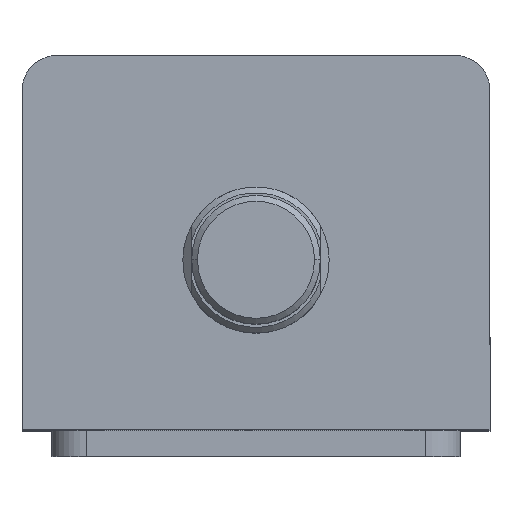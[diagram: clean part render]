
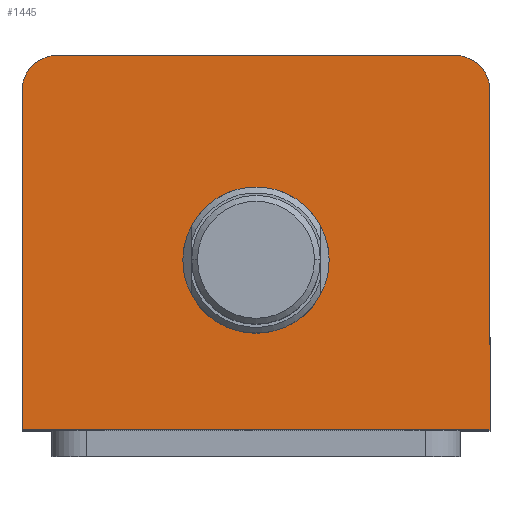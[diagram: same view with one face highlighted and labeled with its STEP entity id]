
A CAD part, top view. The second image highlights one B-rep face of the part: STEP entity #1445.
In plain terms, the highlighted planar face has unit normal (0, 0, 1).
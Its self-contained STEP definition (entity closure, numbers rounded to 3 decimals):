
#2 = VERTEX_POINT ( 'NONE', #3546 ) ;
#53 = AXIS2_PLACEMENT_3D ( 'NONE', #2887, #2951, #2975 ) ;
#75 = VERTEX_POINT ( 'NONE', #3510 ) ;
#198 = VERTEX_POINT ( 'NONE', #3489 ) ;
#221 = AXIS2_PLACEMENT_3D ( 'NONE', #3081, #3080, #3079 ) ;
#361 = DIRECTION ( 'NONE',  ( 1., 0., 0. ) ) ;
#362 = DIRECTION ( 'NONE',  ( 0., 0., 1. ) ) ;
#375 = PLANE ( 'NONE',  #1585 ) ;
#386 = CARTESIAN_POINT ( 'NONE',  ( 0., 0., 125. ) ) ;
#555 = VERTEX_POINT ( 'NONE', #3459 ) ;
#608 = VERTEX_POINT ( 'NONE', #3644 ) ;
#636 = VERTEX_POINT ( 'NONE', #3615 ) ;
#642 = VERTEX_POINT ( 'NONE', #3609 ) ;
#733 = EDGE_LOOP ( 'NONE', ( #1634, #1632 ) ) ;
#744 = EDGE_LOOP ( 'NONE', ( #1637, #1641, #1635, #1638, #1714, #1686 ) ) ;
#919 = VECTOR ( 'NONE', #3560, 1000. ) ;
#920 = LINE ( 'NONE', #3559, #919 ) ;
#957 = LINE ( 'NONE', #3495, #960 ) ;
#960 = VECTOR ( 'NONE', #3494, 1000. ) ;
#966 = CIRCLE ( 'NONE', #53, 6. ) ;
#977 = CIRCLE ( 'NONE', #2650, 6. ) ;
#983 = LINE ( 'NONE', #2743, #986 ) ;
#986 = VECTOR ( 'NONE', #2770, 1000. ) ;
#1009 = CIRCLE ( 'NONE', #2662, 12.5 ) ;
#1146 = EDGE_CURVE ( 'NONE', #3718, #636, #920, .T. ) ;
#1170 = EDGE_CURVE ( 'NONE', #555, #75, #957, .T. ) ;
#1178 = EDGE_CURVE ( 'NONE', #75, #3718, #966, .T. ) ;
#1187 = EDGE_CURVE ( 'NONE', #636, #2, #977, .T. ) ;
#1191 = EDGE_CURVE ( 'NONE', #2, #642, #983, .T. ) ;
#1204 = EDGE_CURVE ( 'NONE', #198, #608, #1009, .T. ) ;
#1369 = DIRECTION ( 'NONE',  ( 1., 0., 0. ) ) ;
#1370 = CARTESIAN_POINT ( 'NONE',  ( -40., -32., 125. ) ) ;
#1445 = ADVANCED_FACE ( 'NONE', ( #2457, #2466 ), #375, .T. ) ;
#1585 = AXIS2_PLACEMENT_3D ( 'NONE', #386, #362, #361 ) ;
#1632 = ORIENTED_EDGE ( 'NONE', *, *, #3007, .F. ) ;
#1634 = ORIENTED_EDGE ( 'NONE', *, *, #1204, .F. ) ;
#1635 = ORIENTED_EDGE ( 'NONE', *, *, #1191, .T. ) ;
#1637 = ORIENTED_EDGE ( 'NONE', *, *, #1146, .T. ) ;
#1638 = ORIENTED_EDGE ( 'NONE', *, *, #3699, .T. ) ;
#1641 = ORIENTED_EDGE ( 'NONE', *, *, #1187, .T. ) ;
#1686 = ORIENTED_EDGE ( 'NONE', *, *, #1178, .T. ) ;
#1714 = ORIENTED_EDGE ( 'NONE', *, *, #1170, .T. ) ;
#2140 = LINE ( 'NONE', #1370, #2142 ) ;
#2142 = VECTOR ( 'NONE', #1369, 1000. ) ;
#2457 = FACE_BOUND ( 'NONE', #733, .T. ) ;
#2466 = FACE_OUTER_BOUND ( 'NONE', #744, .T. ) ;
#2607 = CIRCLE ( 'NONE', #221, 12.5 ) ;
#2650 = AXIS2_PLACEMENT_3D ( 'NONE', #2827, #2903, #2985 ) ;
#2662 = AXIS2_PLACEMENT_3D ( 'NONE', #2866, #2871, #2997 ) ;
#2743 = CARTESIAN_POINT ( 'NONE',  ( -40., 32., 125. ) ) ;
#2770 = DIRECTION ( 'NONE',  ( 0., -1., 0. ) ) ;
#2827 = CARTESIAN_POINT ( 'NONE',  ( -34., 26., 125. ) ) ;
#2866 = CARTESIAN_POINT ( 'NONE',  ( 0., -3., 125. ) ) ;
#2871 = DIRECTION ( 'NONE',  ( 0., 0., 1. ) ) ;
#2887 = CARTESIAN_POINT ( 'NONE',  ( 34., 26., 125. ) ) ;
#2903 = DIRECTION ( 'NONE',  ( 0., 0., 1. ) ) ;
#2951 = DIRECTION ( 'NONE',  ( 0., 0., 1. ) ) ;
#2975 = DIRECTION ( 'NONE',  ( 1., 0., 0. ) ) ;
#2985 = DIRECTION ( 'NONE',  ( 1., 0., 0. ) ) ;
#2997 = DIRECTION ( 'NONE',  ( 1., 0., 0. ) ) ;
#3007 = EDGE_CURVE ( 'NONE', #608, #198, #2607, .T. ) ;
#3079 = DIRECTION ( 'NONE',  ( 1., 0., 0. ) ) ;
#3080 = DIRECTION ( 'NONE',  ( 0., 0., 1. ) ) ;
#3081 = CARTESIAN_POINT ( 'NONE',  ( 0., -3., 125. ) ) ;
#3459 = CARTESIAN_POINT ( 'NONE',  ( 40., -32., 125. ) ) ;
#3489 = CARTESIAN_POINT ( 'NONE',  ( 12.5, -3., 125. ) ) ;
#3494 = DIRECTION ( 'NONE',  ( 0., 1., 0. ) ) ;
#3495 = CARTESIAN_POINT ( 'NONE',  ( 40., 32., 125. ) ) ;
#3510 = CARTESIAN_POINT ( 'NONE',  ( 40., 26., 125. ) ) ;
#3546 = CARTESIAN_POINT ( 'NONE',  ( -40., 26., 125. ) ) ;
#3559 = CARTESIAN_POINT ( 'NONE',  ( -40., 32., 125. ) ) ;
#3560 = DIRECTION ( 'NONE',  ( -1., 0., 0. ) ) ;
#3609 = CARTESIAN_POINT ( 'NONE',  ( -40., -32., 125. ) ) ;
#3615 = CARTESIAN_POINT ( 'NONE',  ( -34., 32., 125. ) ) ;
#3644 = CARTESIAN_POINT ( 'NONE',  ( -12.5, -3., 125. ) ) ;
#3699 = EDGE_CURVE ( 'NONE', #642, #555, #2140, .T. ) ;
#3718 = VERTEX_POINT ( 'NONE', #3725 ) ;
#3725 = CARTESIAN_POINT ( 'NONE',  ( 34., 32., 125. ) ) ;
